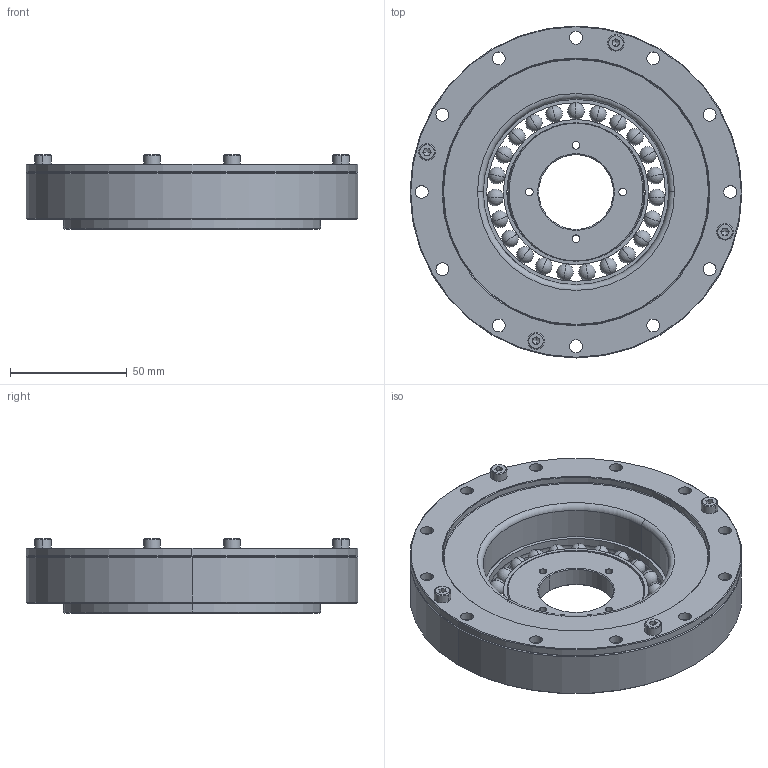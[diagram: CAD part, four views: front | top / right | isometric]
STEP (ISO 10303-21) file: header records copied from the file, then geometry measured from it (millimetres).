
FILE_DESCRIPTION (( 'STEP AP203' ), '1' );
FILE_NAME ('BHD-32-XXX-U-¢ñ.STEP', '2019-01-15T06:13:03', ( 'User' ), ( 'China' ), 'SwSTEP 2.0', 'SolidWorks 2015', '' );
FILE_SCHEMA (( 'CONFIG_CONTROL_DESIGN' ));
Length unit declared in the file: millimetre
Products named in the file (1): BHD-32-XXX-U-ｉ
Bounding box: 142 x 142 x 31.9 mm (x, y, z)
Surface area: 84396.1 mm2 (no closed solid volume)
Topology: 0 solids, 32 shells, 295 faces, 845 edges, 547 vertices
Faces by surface type: cylinder 138, plane 49, cone 46, sphere 46, torus 10, bspline 6
Entity records: 12700 total; most frequent: CARTESIAN_POINT 5312, DIRECTION 1714, ORIENTED_EDGE 1288, EDGE_CURVE 722, AXIS2_PLACEMENT_3D 716, VERTEX_POINT 478, CIRCLE 426, EDGE_LOOP 386
